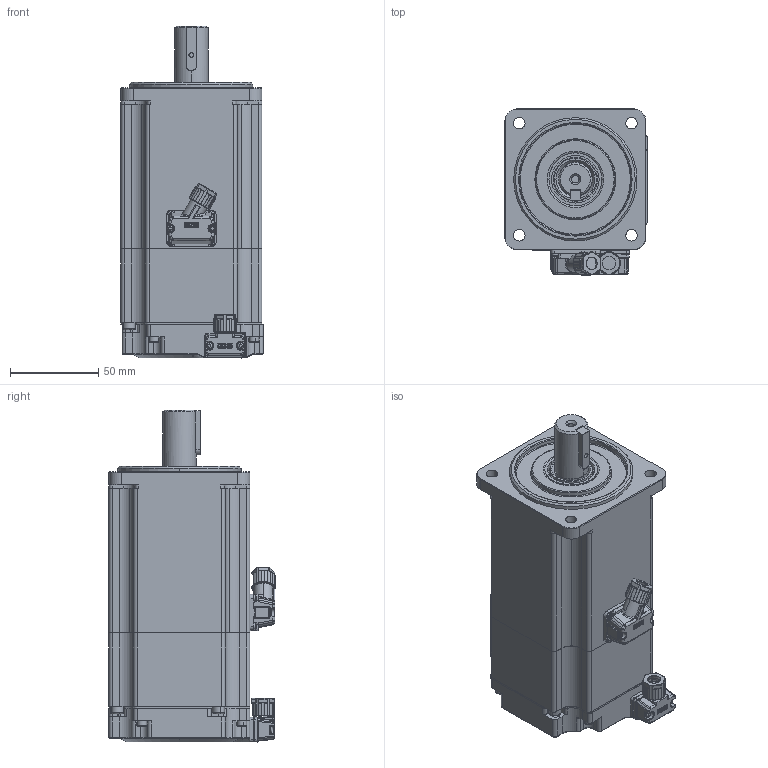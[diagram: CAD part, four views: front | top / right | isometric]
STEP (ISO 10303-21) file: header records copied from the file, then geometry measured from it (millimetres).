
FILE_DESCRIPTION (( 'STEP AP203' ), '1' );
FILE_NAME ('WB80ST-Z1M03230脣匿-陔薊遴.STEP', '2024-10-23T01:45:27', ( 'lvbing' ), ( 'WG' ), 'SwSTEP 2.0', 'SolidWorks 2018', '' );
FILE_SCHEMA (( 'CONFIG_CONTROL_DESIGN' ));
Products named in the file (2): WB80ST-Z1M03230脣匿-陔薊遴
Bounding box: 80.74 x 94.3 x 188.5 mm (x, y, z)
Surface area: 77059.6 mm2 (no closed solid volume)
Topology: 0 solids, 34 shells, 1042 faces, 4054 edges, 2923 vertices
Faces by surface type: cylinder 445, plane 358, torus 135, bspline 55, sphere 26, cone 23
Entity records: 46120 total; most frequent: CARTESIAN_POINT 13741, DIRECTION 6452, ORIENTED_EDGE 6264, EDGE_CURVE 4044, VERTEX_POINT 2923, AXIS2_PLACEMENT_3D 2333, VECTOR 1786, LINE 1786
